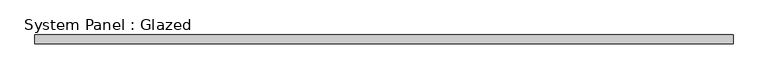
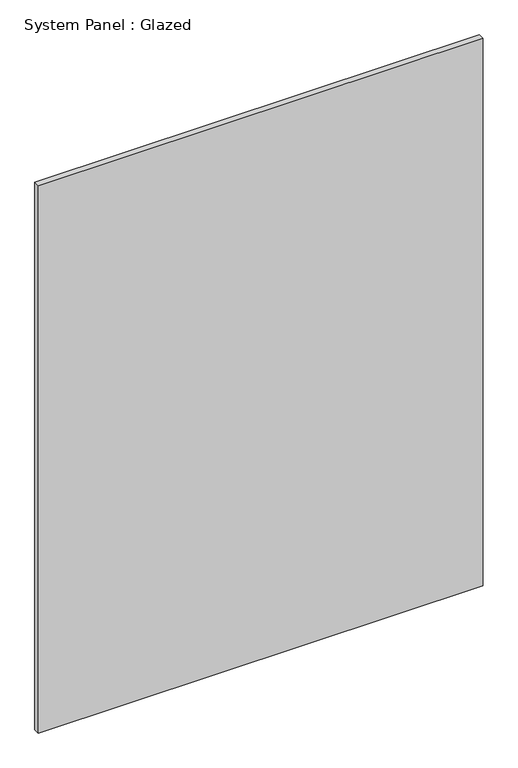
"""IFC4 building model written with IfcOpenShell, lengths in millimetres: plate geometry, System Panel : Glazed."""

import ifcopenshell
import ifcopenshell.guid

model = None  # the IFC model being written
_history = None  # IfcOwnerHistory: only IFC2X3 demands one
_inside = {}  # id of a spatial element -> (the spatial element, [elements in it])
_under = {}  # id of a project, library or spatial element -> (it, [spatial elements below it])
_declared = {}  # id of a project -> (the project, [libraries it declares])
_typed = {}  # id of a type object -> (the type object, [elements of that type])
_made_of = {}  # id of a material, layer set ... -> (it, [elements and type objects made of it])


def new_model(schema):
    """Start an empty IFC model of exactly this schema.

    Asked for "IFC4X3", IfcOpenShell would pick the latest addendum, in which some entities
    have other attributes; the version numbers below select the first issue.
    IFC2X3 requires an IfcOwnerHistory on every rooted entity: one is made here for all.
    """
    global model, _history
    if schema == "IFC4X3":
        model = ifcopenshell.file(schema_version=(4, 3, 0, 0))
    else:
        model = ifcopenshell.file(schema=schema)
    _inside.clear()
    _under.clear()
    _declared.clear()
    _typed.clear()
    _made_of.clear()
    _history = None
    if model.schema == "IFC2X3":
        org = make("IfcOrganization", Name="unknown")
        user = make(
            "IfcPersonAndOrganization",
            ThePerson=make("IfcPerson", FamilyName="unknown"),
            TheOrganization=org,
        )
        app = make(
            "IfcApplication",
            ApplicationDeveloper=org,
            Version="unknown",
            ApplicationFullName="unknown",
            ApplicationIdentifier="unknown",
        )
        _history = make(
            "IfcOwnerHistory",
            OwningUser=user,
            OwningApplication=app,
            ChangeAction="ADDED",
            CreationDate=0,
        )
    return model


def make(cls, **values):
    """One entity of the class cls with the attributes given. An attribute that is None is left unset."""
    return model.create_entity(
        cls, **{name: value for name, value in values.items() if value is not None}
    )


def rooted(cls, **values):
    """An entity with a GlobalId (a new one), such as an element, a storey or a relation."""
    return make(cls, GlobalId=ifcopenshell.guid.new(), OwnerHistory=_history, **values)


def si_unit(unit_type, name, prefix=None):
    """IfcSIUnit, for example si_unit("LENGTHUNIT", "METRE", prefix="MILLI")."""
    return make("IfcSIUnit", UnitType=unit_type, Prefix=prefix, Name=name)


def assignment(units):
    """IfcUnitAssignment: the units of a project."""
    return None if units is None else make("IfcUnitAssignment", Units=units)


def point(xyz):
    """IfcCartesianPoint."""
    return None if xyz is None else make("IfcCartesianPoint", Coordinates=xyz)


def direction(xyz):
    """IfcDirection."""
    return None if xyz is None else make("IfcDirection", DirectionRatios=xyz)


def frame(location, z_axis=None, x_axis=None):
    """IfcAxis2Placement3D, a coordinate frame: its origin and axes. An axis left out is left unset."""
    return make(
        "IfcAxis2Placement3D",
        Location=point(location),
        Axis=direction(z_axis),
        RefDirection=direction(x_axis),
    )


def origin():
    """The frame at (0, 0, 0) with its axes left unset."""
    return frame((0.0, 0.0, 0.0))


def origin_with_axes():
    """The frame at (0, 0, 0) with the z axis (0, 0, 1) and the x axis (1, 0, 0) written out."""
    return frame((0.0, 0.0, 0.0), z_axis=(0.0, 0.0, 1.0), x_axis=(1.0, 0.0, 0.0))


def place(relative_to, where):
    """IfcLocalPlacement: puts the frame where relative to a parent placement (None: the world)."""
    return make(
        "IfcLocalPlacement", PlacementRelTo=relative_to, RelativePlacement=where
    )


def context(
    kind, dimensions, precision=None, world=None, true_north=None, identifier=None
):
    """IfcGeometricRepresentationContext, for example the 3D "Model" context."""
    return make(
        "IfcGeometricRepresentationContext",
        ContextIdentifier=identifier,
        ContextType=kind,
        CoordinateSpaceDimension=dimensions,
        Precision=precision,
        WorldCoordinateSystem=world,
        TrueNorth=true_north,
    )


def project(units=None, contexts=None):
    """IfcProject with its units and contexts."""
    return rooted(
        "IfcProject",
        Name="project",
        RepresentationContexts=contexts,
        UnitsInContext=assignment(units),
    )


def spatial(cls, under=None, at=None, **own):
    """A site, building, storey or space (cls), placed at a placement, below another one or the project."""
    s = rooted(cls, ObjectPlacement=at, **own)
    if under is not None:
        _under.setdefault(under.id(), (under, []))[1].append(s)
    return s


def polyline(points):
    """IfcPolyline through the points."""
    return make("IfcPolyline", Points=[point(p) for p in points])


def outline(outer, holes=None, kind="AREA"):
    """IfcArbitraryClosedProfileDef: a profile drawn as a closed curve; with holes, ...WithVoids."""
    if holes is None:
        return make("IfcArbitraryClosedProfileDef", ProfileType=kind, OuterCurve=outer)
    return make(
        "IfcArbitraryProfileDefWithVoids",
        ProfileType=kind,
        OuterCurve=outer,
        InnerCurves=holes,
    )


def extrude(swept, where, along, depth):
    """IfcExtrudedAreaSolid: the profile swept, set in the frame where, extruded along a direction by depth."""
    return make(
        "IfcExtrudedAreaSolid",
        SweptArea=swept,
        Position=where,
        ExtrudedDirection=direction(along),
        Depth=depth,
    )


def shape(context_of_items, identifier, shape_type, items):
    """IfcShapeRepresentation: the items that make up one representation, for example the "Body"."""
    return make(
        "IfcShapeRepresentation",
        ContextOfItems=context_of_items,
        RepresentationIdentifier=identifier,
        RepresentationType=shape_type,
        Items=items,
    )


def source(mapping_origin, context_of_items, identifier, shape_type, items):
    """IfcRepresentationMap: a shape defined once, which mapped items show again and again."""
    return make(
        "IfcRepresentationMap",
        MappingOrigin=mapping_origin,
        MappedRepresentation=shape(context_of_items, identifier, shape_type, items),
    )


def transform(
    local_origin,
    x_axis=None,
    y_axis=None,
    z_axis=None,
    scale=None,
    scale2=None,
    scale3=None,
    uniform=True,
):
    """IfcCartesianTransformationOperator3D, or its non-uniform kind. x_axis, y_axis, z_axis: its Axis1, 2, 3."""
    if uniform:
        return make(
            "IfcCartesianTransformationOperator3D",
            Axis1=direction(x_axis),
            Axis2=direction(y_axis),
            LocalOrigin=point(local_origin),
            Scale=scale,
            Axis3=direction(z_axis),
        )
    return make(
        "IfcCartesianTransformationOperator3DnonUniform",
        Axis1=direction(x_axis),
        Axis2=direction(y_axis),
        LocalOrigin=point(local_origin),
        Scale=scale,
        Axis3=direction(z_axis),
        Scale2=scale2,
        Scale3=scale3,
    )


def mapped(mapping_source, mapping_target):
    """IfcMappedItem: shows the shape of a source again, moved by a transform."""
    return make(
        "IfcMappedItem", MappingSource=mapping_source, MappingTarget=mapping_target
    )


def made_of(thing, what):
    """Note that an element or type object is made of a material, layer set ...; save() writes the relation."""
    if what is not None:
        _made_of.setdefault(what.id(), (what, []))[1].append(thing)
    return thing


def element(
    cls,
    number,
    at=None,
    inside=None,
    cuts=None,
    type_object=None,
    material=None,
    context=None,
    identifier="Body",
    shape_type=None,
    held_by="IfcProductDefinitionShape",
    body=None,
    shapes=None,
    **own,
):
    """One element of the class cls, such as IfcWall. Its Tag is "e" and its number.

    at: its placement. inside: the storey or other place that contains it. cuts: it is an
    opening in that element (IfcRelVoidsElement). A single representation is given by context,
    identifier, shape_type and body (its items); several are given by shapes. held_by: the class
    of the entity that holds the representations. save() writes the other relations.
    """
    e = rooted(cls, Tag="e%d" % number, ObjectPlacement=at, **own)
    if body is not None:
        shapes = [shape(context, identifier, shape_type, body)]
    if shapes is not None:
        e.Representation = make(held_by, Representations=shapes)
    if inside is not None:
        _inside.setdefault(inside.id(), (inside, []))[1].append(e)
    if cuts is not None:
        rooted(
            "IfcRelVoidsElement", RelatingBuildingElement=cuts, RelatedOpeningElement=e
        )
    if type_object is not None:
        _typed.setdefault(type_object.id(), (type_object, []))[1].append(e)
    return made_of(e, material)


def aggregate(whole, parts):
    """IfcRelAggregates: a whole, such as a stair, and the parts it consists of."""
    return rooted("IfcRelAggregates", RelatingObject=whole, RelatedObjects=parts)


def save(model, path):
    """Write the relations noted so far, then the file.

    IfcRelAggregates (storeys below a building ...), IfcRelContainedInSpatialStructure (elements
    in a storey), IfcRelDefinesByType, IfcRelAssociatesMaterial and IfcRelDeclares: one each for
    every whole, place, type object, material and project.
    """
    for whole, parts in _under.values():
        aggregate(whole, parts)
    for where, things in _inside.values():
        rooted(
            "IfcRelContainedInSpatialStructure",
            RelatedElements=things,
            RelatingStructure=where,
        )
    for kind, things in _typed.values():
        rooted("IfcRelDefinesByType", RelatedObjects=things, RelatingType=kind)
    for what, things in _made_of.values():
        rooted("IfcRelAssociatesMaterial", RelatedObjects=things, RelatingMaterial=what)
    for by, libraries in _declared.values():
        rooted("IfcRelDeclares", RelatingContext=by, RelatedDefinitions=libraries)
    model.write(path)


def system_panel_glazed_7db8ac78(model_context):
    return source(origin(), model_context, "Body", "SweptSolid", [
        extrude(outline(polyline([(989.2021654, 19.05), (-989.2021654, 19.05), (-989.2021654, 44.45), (989.2021654, 44.45), (989.2021654, 19.05)])), origin_with_axes(), (0.0, 0.0, 1.0), 2573.8666667),
    ])


if __name__ == "__main__":
    model = new_model("IFC4")
    model_context = context("Model", 3, world=origin())
    ifc_project = project(units=[si_unit("LENGTHUNIT", "METRE", prefix="MILLI")], contexts=[model_context])
    site = spatial("IfcSite", under=ifc_project)
    building = spatial("IfcBuilding", under=site)
    placement = place(None, origin())
    system_panel_glazed_shape = system_panel_glazed_7db8ac78(model_context)
    element("IfcPlate", 1, ObjectType="System Panel : Glazed", at=placement, inside=building, context=model_context, shape_type="MappedRepresentation", body=[
        mapped(system_panel_glazed_shape, transform((0.0, 0.0, 0.0), x_axis=(1.0, 0.0, 0.0), y_axis=(0.0, 1.0, 0.0), z_axis=(0.0, 0.0, 1.0))),
    ])
    save(model, "model.ifc")
